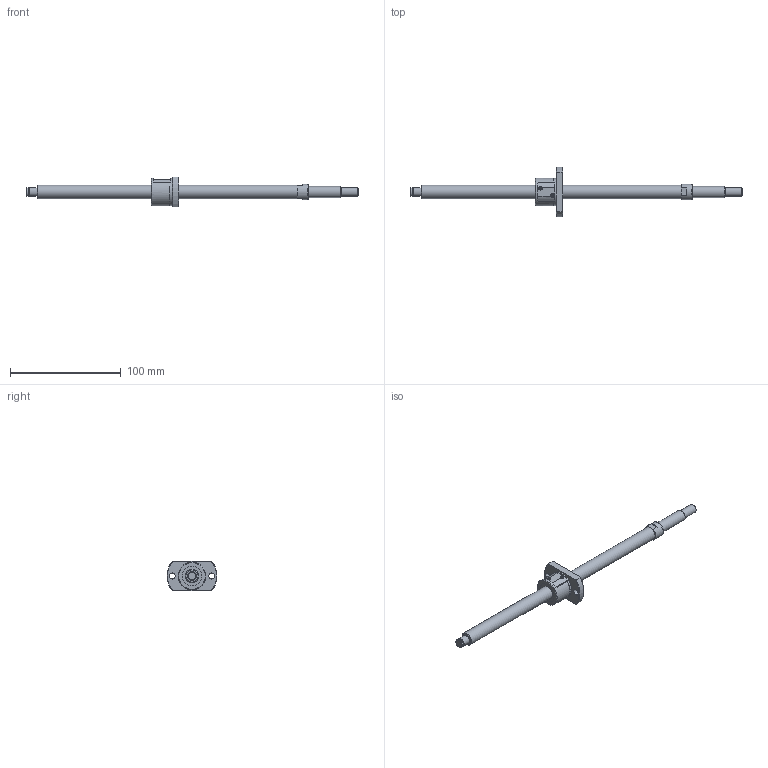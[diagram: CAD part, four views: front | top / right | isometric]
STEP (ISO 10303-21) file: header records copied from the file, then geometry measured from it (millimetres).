
FILE_DESCRIPTION(/* description */ ('STEP AP214'),/* implementation_level */ '2;1');
FILE_NAME(/* name */ 'SG1202-231R300C5B0X(103)',/* time_stamp */ '2026-07-24T15:20:01+02:00',/* author */ ('License CC BY-ND 4.0'),/* organization */ ('CADENAS'),/* preprocessor_version */ 'ST-DEVELOPER v20',/* originating_system */ 'PARTsolutions',/* authorisation */ ' ');
FILE_SCHEMA (('AUTOMOTIVE_DESIGN {1 0 10303 214 3 1 1}'));
Length unit declared in the file: millimetre
Products named in the file (3): SG1202-231R300C5B0X(103); SG1202-231R300C5B_shaft; SG1202 C5_nut
Assembly tree (2 placements, depth 2):
  SG1202-231R300C5B0X(103)
    SG1202-231R300C5B_shaft
    SG1202 C5_nut
Bounding box: 300 x 45 x 27 mm (x, y, z)
Volume: 44120.5 mm3; surface area: 16561.8 mm2
Topology: 2 solids, 2 shells, 79 faces, 188 edges, 123 vertices
Faces by surface type: plane 38, cylinder 26, cone 14, torus 1
Full cylindrical faces by diameter (mm): 5.5 x2, 7.6 x1, 8 x3, 10 x1, 12 x2, 14 x1, 18 x2, 24.5 x1, 25 x1
Entity records: 2197 total; most frequent: CARTESIAN_POINT 408, DIRECTION 374, ORIENTED_EDGE 306, AXIS2_PLACEMENT_3D 157, EDGE_CURVE 153, EDGE_LOOP 120, FACE_BOUND 120, VERTEX_POINT 113
